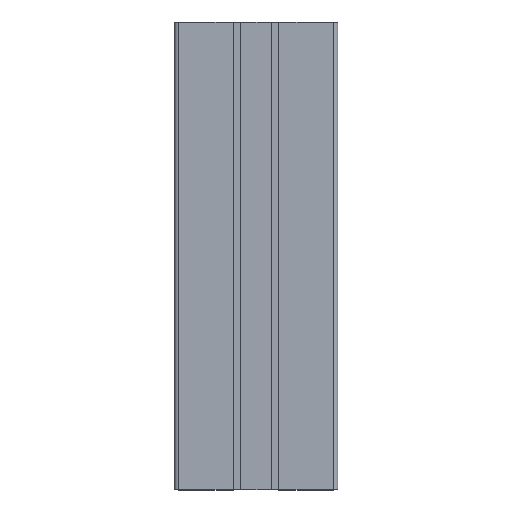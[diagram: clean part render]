
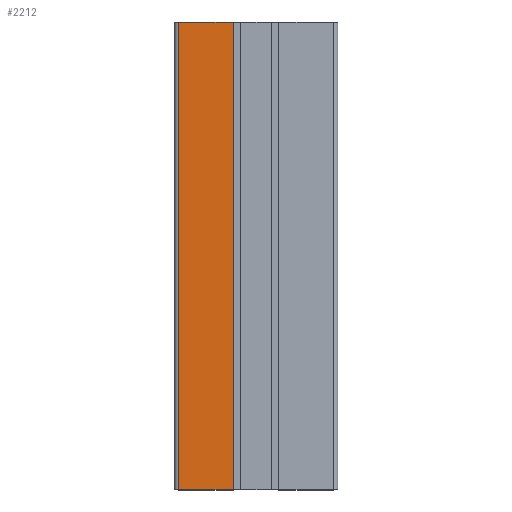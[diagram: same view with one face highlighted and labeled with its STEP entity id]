
A CAD part, top view. The second image highlights one B-rep face of the part: STEP entity #2212.
In plain terms, the highlighted planar face has unit normal (0, 0, 1).
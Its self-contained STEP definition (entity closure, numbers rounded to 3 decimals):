
#136=FACE_OUTER_BOUND('',#246,.T.);
#246=EDGE_LOOP('',(#1627,#1628,#1629,#1630));
#436=LINE('',#3318,#720);
#437=LINE('',#3321,#721);
#438=LINE('',#3323,#722);
#439=LINE('',#3324,#723);
#720=VECTOR('',#2712,100.);
#721=VECTOR('',#2715,11.6);
#722=VECTOR('',#2716,11.6);
#723=VECTOR('',#2717,100.);
#985=VERTEX_POINT('',#3314);
#986=VERTEX_POINT('',#3316);
#987=VERTEX_POINT('',#3320);
#988=VERTEX_POINT('',#3322);
#1252=EDGE_CURVE('',#985,#986,#436,.T.);
#1253=EDGE_CURVE('',#985,#987,#437,.T.);
#1254=EDGE_CURVE('',#988,#986,#438,.T.);
#1255=EDGE_CURVE('',#987,#988,#439,.T.);
#1627=ORIENTED_EDGE('',*,*,#1253,.F.);
#1628=ORIENTED_EDGE('',*,*,#1252,.T.);
#1629=ORIENTED_EDGE('',*,*,#1254,.F.);
#1630=ORIENTED_EDGE('',*,*,#1255,.F.);
#2106=PLANE('',#2356);
#2212=ADVANCED_FACE('',(#136),#2106,.T.);
#2356=AXIS2_PLACEMENT_3D('',#3319,#2713,#2714);
#2712=DIRECTION('',(0.,1.,0.));
#2713=DIRECTION('center_axis',(0.,0.,1.));
#2714=DIRECTION('ref_axis',(1.,0.,0.));
#2715=DIRECTION('',(-1.,0.,0.));
#2716=DIRECTION('',(1.,0.,0.));
#2717=DIRECTION('',(0.,1.,0.));
#3314=CARTESIAN_POINT('',(-22.646,0.,-0.364));
#3316=CARTESIAN_POINT('',(-22.646,100.,-0.364));
#3318=CARTESIAN_POINT('',(-22.646,0.,-0.364));
#3319=CARTESIAN_POINT('Origin',(-34.246,0.,-0.364));
#3320=CARTESIAN_POINT('',(-34.246,0.,-0.364));
#3321=CARTESIAN_POINT('',(-22.646,0.,-0.364));
#3322=CARTESIAN_POINT('',(-34.246,100.,-0.364));
#3323=CARTESIAN_POINT('',(-22.646,100.,-0.364));
#3324=CARTESIAN_POINT('',(-34.246,0.,-0.364));
